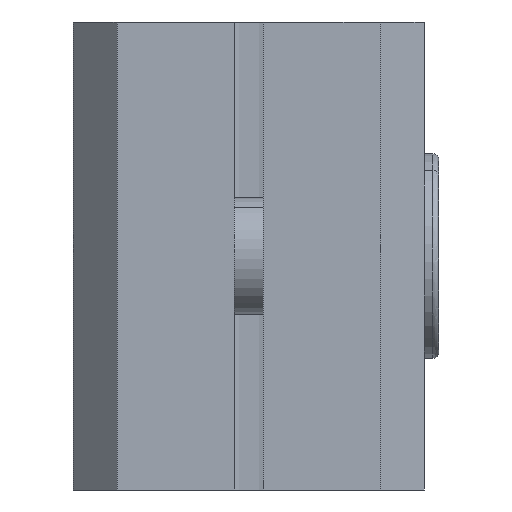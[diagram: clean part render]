
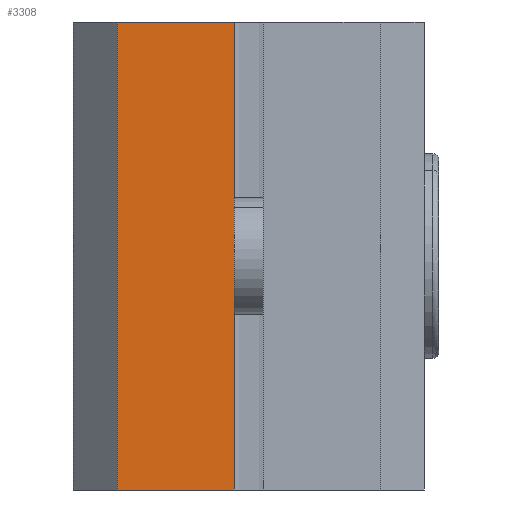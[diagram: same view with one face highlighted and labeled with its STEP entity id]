
A CAD part, left-side view. The second image highlights one B-rep face of the part: STEP entity #3308.
In plain terms, the highlighted planar face has unit normal (-1, 0, 0).
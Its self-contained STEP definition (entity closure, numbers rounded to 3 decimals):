
#79 = VECTOR ( 'NONE', #6795, 1000. ) ;
#1280 = LINE ( 'NONE', #5888, #79 ) ;
#1714 = VERTEX_POINT ( 'NONE', #9122 ) ;
#1826 = DIRECTION ( 'NONE',  ( 0., 0., 1. ) ) ;
#2456 = VECTOR ( 'NONE', #7642, 1000. ) ;
#2519 = AXIS2_PLACEMENT_3D ( 'NONE', #6473, #7452, #1826 ) ;
#3308 = ADVANCED_FACE ( 'NONE', ( #5612 ), #3906, .T. ) ;
#3906 = PLANE ( 'NONE',  #2519 ) ;
#3987 = CARTESIAN_POINT ( 'NONE',  ( -9.423, 16.423, 0. ) ) ;
#4153 = EDGE_CURVE ( 'NONE', #7387, #10831, #1280, .T. ) ;
#4526 = ORIENTED_EDGE ( 'NONE', *, *, #9318, .F. ) ;
#5540 = CARTESIAN_POINT ( 'NONE',  ( -9.423, 16.423, -8. ) ) ;
#5612 = FACE_OUTER_BOUND ( 'NONE', #6354, .T. ) ;
#5697 = EDGE_CURVE ( 'NONE', #8372, #10831, #7821, .T. ) ;
#5888 = CARTESIAN_POINT ( 'NONE',  ( -9.423, 15.923, 8. ) ) ;
#5908 = LINE ( 'NONE', #6938, #10141 ) ;
#6021 = LINE ( 'NONE', #11463, #6469 ) ;
#6058 = ORIENTED_EDGE ( 'NONE', *, *, #4153, .F. ) ;
#6354 = EDGE_LOOP ( 'NONE', ( #4526, #9131, #6058, #10402 ) ) ;
#6469 = VECTOR ( 'NONE', #8532, 1000. ) ;
#6473 = CARTESIAN_POINT ( 'NONE',  ( -9.423, 16.423, -8. ) ) ;
#6795 = DIRECTION ( 'NONE',  ( 0., -1., 0. ) ) ;
#6938 = CARTESIAN_POINT ( 'NONE',  ( -9.423, 15.923, -8. ) ) ;
#7104 = CARTESIAN_POINT ( 'NONE',  ( -9.423, 20.423, 8. ) ) ;
#7387 = VERTEX_POINT ( 'NONE', #7104 ) ;
#7452 = DIRECTION ( 'NONE',  ( -1., 0., 0. ) ) ;
#7642 = DIRECTION ( 'NONE',  ( 0., 0., 1. ) ) ;
#7821 = LINE ( 'NONE', #3987, #2456 ) ;
#8372 = VERTEX_POINT ( 'NONE', #5540 ) ;
#8532 = DIRECTION ( 'NONE',  ( 0., 0., -1. ) ) ;
#8579 = EDGE_CURVE ( 'NONE', #7387, #1714, #6021, .T. ) ;
#9122 = CARTESIAN_POINT ( 'NONE',  ( -9.423, 20.423, -8. ) ) ;
#9131 = ORIENTED_EDGE ( 'NONE', *, *, #5697, .T. ) ;
#9318 = EDGE_CURVE ( 'NONE', #8372, #1714, #5908, .T. ) ;
#9796 = CARTESIAN_POINT ( 'NONE',  ( -9.423, 16.423, 8. ) ) ;
#10141 = VECTOR ( 'NONE', #10419, 1000. ) ;
#10402 = ORIENTED_EDGE ( 'NONE', *, *, #8579, .T. ) ;
#10419 = DIRECTION ( 'NONE',  ( 0., 1., 0. ) ) ;
#10831 = VERTEX_POINT ( 'NONE', #9796 ) ;
#11463 = CARTESIAN_POINT ( 'NONE',  ( -9.423, 20.423, 0. ) ) ;
